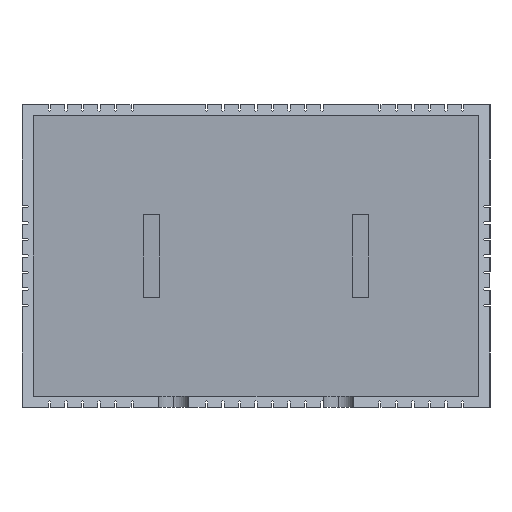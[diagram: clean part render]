
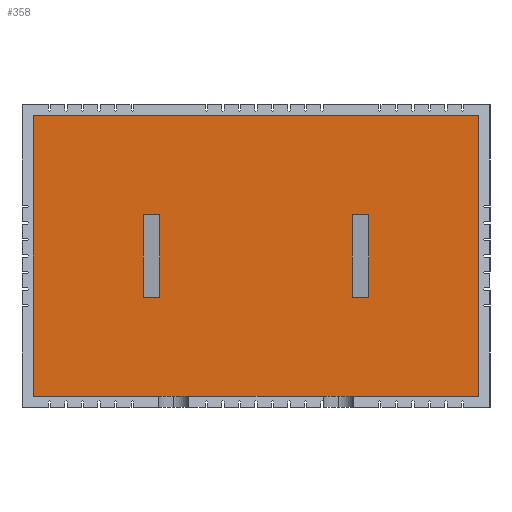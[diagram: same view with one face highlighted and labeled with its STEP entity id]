
A CAD part, left-side view. The second image highlights one B-rep face of the part: STEP entity #358.
In plain terms, the highlighted planar face has unit normal (-1, 0, 0).
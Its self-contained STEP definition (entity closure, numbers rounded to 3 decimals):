
#75 = ORIENTED_EDGE ( 'NONE', *, *, #628, .F. ) ;
#78 = VERTEX_POINT ( 'NONE', #3212 ) ;
#245 = DIRECTION ( 'NONE',  ( 0., 0., -1. ) ) ;
#358 = ADVANCED_FACE ( 'NONE', ( #2482, #7997, #3808 ), #6690, .F. ) ;
#542 = CARTESIAN_POINT ( 'NONE',  ( -168.154, 17.5, -7.5 ) ) ;
#628 = EDGE_CURVE ( 'NONE', #5426, #1120, #6015, .T. ) ;
#756 = VECTOR ( 'NONE', #8674, 1000. ) ;
#907 = EDGE_CURVE ( 'NONE', #1120, #4793, #7209, .T. ) ;
#1120 = VERTEX_POINT ( 'NONE', #4787 ) ;
#1186 = VECTOR ( 'NONE', #8878, 1000. ) ;
#1211 = ORIENTED_EDGE ( 'NONE', *, *, #907, .F. ) ;
#1294 = CARTESIAN_POINT ( 'NONE',  ( -168.154, 17.5, 7.5 ) ) ;
#1505 = VECTOR ( 'NONE', #6428, 1000. ) ;
#1568 = LINE ( 'NONE', #4419, #5545 ) ;
#1588 = VERTEX_POINT ( 'NONE', #6890 ) ;
#1686 = CARTESIAN_POINT ( 'NONE',  ( -168.154, 0., 0. ) ) ;
#1722 = CARTESIAN_POINT ( 'NONE',  ( -168.154, 0., 25.5 ) ) ;
#1847 = EDGE_CURVE ( 'NONE', #5691, #1588, #5857, .T. ) ;
#1913 = ORIENTED_EDGE ( 'NONE', *, *, #1847, .F. ) ;
#1919 = DIRECTION ( 'NONE',  ( 0., 0., 1. ) ) ;
#2192 = LINE ( 'NONE', #5789, #756 ) ;
#2260 = DIRECTION ( 'NONE',  ( 0., 1., 0. ) ) ;
#2289 = VECTOR ( 'NONE', #4115, 1000. ) ;
#2298 = CARTESIAN_POINT ( 'NONE',  ( -168.154, -17.5, 0. ) ) ;
#2482 = FACE_BOUND ( 'NONE', #9371, .T. ) ;
#2606 = CARTESIAN_POINT ( 'NONE',  ( -168.154, -17.5, 7.5 ) ) ;
#2663 = EDGE_CURVE ( 'NONE', #7882, #8413, #1568, .T. ) ;
#2855 = CARTESIAN_POINT ( 'NONE',  ( -168.154, 20.5, 0. ) ) ;
#2893 = VERTEX_POINT ( 'NONE', #4212 ) ;
#2933 = VECTOR ( 'NONE', #5748, 1000. ) ;
#2974 = CARTESIAN_POINT ( 'NONE',  ( -168.154, -20.5, 0. ) ) ;
#3041 = CARTESIAN_POINT ( 'NONE',  ( -168.154, -20.5, -7.5 ) ) ;
#3183 = DIRECTION ( 'NONE',  ( 0., 1., 0. ) ) ;
#3212 = CARTESIAN_POINT ( 'NONE',  ( -168.154, -17.5, -7.5 ) ) ;
#3297 = CARTESIAN_POINT ( 'NONE',  ( -168.154, -40.5, 25.5 ) ) ;
#3342 = ORIENTED_EDGE ( 'NONE', *, *, #6682, .T. ) ;
#3542 = LINE ( 'NONE', #8696, #4249 ) ;
#3707 = EDGE_CURVE ( 'NONE', #5413, #78, #6727, .T. ) ;
#3710 = CARTESIAN_POINT ( 'NONE',  ( -168.154, 0., 7.5 ) ) ;
#3747 = ORIENTED_EDGE ( 'NONE', *, *, #8414, .F. ) ;
#3808 = FACE_BOUND ( 'NONE', #5448, .T. ) ;
#3811 = CARTESIAN_POINT ( 'NONE',  ( -168.154, -40.5, 0. ) ) ;
#4115 = DIRECTION ( 'NONE',  ( 0., -1., 0. ) ) ;
#4162 = LINE ( 'NONE', #7036, #2289 ) ;
#4212 = CARTESIAN_POINT ( 'NONE',  ( -168.154, -20.5, 7.5 ) ) ;
#4249 = VECTOR ( 'NONE', #2260, 1000. ) ;
#4345 = EDGE_CURVE ( 'NONE', #5267, #2893, #7332, .T. ) ;
#4419 = CARTESIAN_POINT ( 'NONE',  ( -168.154, 40.5, 25.5 ) ) ;
#4575 = DIRECTION ( 'NONE',  ( 1., 0., 0. ) ) ;
#4715 = CARTESIAN_POINT ( 'NONE',  ( -168.154, 17.5, 0. ) ) ;
#4787 = CARTESIAN_POINT ( 'NONE',  ( -168.154, 20.5, 7.5 ) ) ;
#4793 = VERTEX_POINT ( 'NONE', #4964 ) ;
#4964 = CARTESIAN_POINT ( 'NONE',  ( -168.154, 20.5, -7.5 ) ) ;
#4973 = ORIENTED_EDGE ( 'NONE', *, *, #8668, .F. ) ;
#5066 = ORIENTED_EDGE ( 'NONE', *, *, #3707, .F. ) ;
#5090 = ORIENTED_EDGE ( 'NONE', *, *, #4345, .F. ) ;
#5267 = VERTEX_POINT ( 'NONE', #3041 ) ;
#5329 = CARTESIAN_POINT ( 'NONE',  ( -168.154, 0., -7.5 ) ) ;
#5413 = VERTEX_POINT ( 'NONE', #2606 ) ;
#5426 = VERTEX_POINT ( 'NONE', #1294 ) ;
#5448 = EDGE_LOOP ( 'NONE', ( #7699, #4973, #1211, #75 ) ) ;
#5545 = VECTOR ( 'NONE', #7378, 1000. ) ;
#5691 = VERTEX_POINT ( 'NONE', #3297 ) ;
#5700 = ORIENTED_EDGE ( 'NONE', *, *, #7858, .T. ) ;
#5748 = DIRECTION ( 'NONE',  ( 0., 0., -1. ) ) ;
#5789 = CARTESIAN_POINT ( 'NONE',  ( -168.154, 40.5, -25.5 ) ) ;
#5857 = LINE ( 'NONE', #3811, #6723 ) ;
#5890 = CARTESIAN_POINT ( 'NONE',  ( -168.154, 40.5, 25.5 ) ) ;
#6015 = LINE ( 'NONE', #3710, #9130 ) ;
#6054 = CARTESIAN_POINT ( 'NONE',  ( -168.154, 40.5, -25.5 ) ) ;
#6428 = DIRECTION ( 'NONE',  ( 0., 0., 1. ) ) ;
#6682 = EDGE_CURVE ( 'NONE', #8413, #1588, #2192, .T. ) ;
#6690 = PLANE ( 'NONE',  #8959 ) ;
#6723 = VECTOR ( 'NONE', #8832, 1000. ) ;
#6727 = LINE ( 'NONE', #2298, #9198 ) ;
#6771 = LINE ( 'NONE', #1722, #8779 ) ;
#6890 = CARTESIAN_POINT ( 'NONE',  ( -168.154, -40.5, -25.5 ) ) ;
#7036 = CARTESIAN_POINT ( 'NONE',  ( -168.154, 0., -7.5 ) ) ;
#7209 = LINE ( 'NONE', #2855, #2933 ) ;
#7215 = ORIENTED_EDGE ( 'NONE', *, *, #7284, .F. ) ;
#7284 = EDGE_CURVE ( 'NONE', #2893, #5413, #3542, .T. ) ;
#7332 = LINE ( 'NONE', #2974, #1505 ) ;
#7378 = DIRECTION ( 'NONE',  ( 0., 0., -1. ) ) ;
#7454 = DIRECTION ( 'NONE',  ( 0., 0., -1. ) ) ;
#7655 = VERTEX_POINT ( 'NONE', #542 ) ;
#7699 = ORIENTED_EDGE ( 'NONE', *, *, #8802, .F. ) ;
#7790 = LINE ( 'NONE', #4715, #8127 ) ;
#7858 = EDGE_CURVE ( 'NONE', #5691, #7882, #6771, .T. ) ;
#7882 = VERTEX_POINT ( 'NONE', #5890 ) ;
#7997 = FACE_OUTER_BOUND ( 'NONE', #8636, .T. ) ;
#8127 = VECTOR ( 'NONE', #1919, 1000. ) ;
#8211 = LINE ( 'NONE', #5329, #1186 ) ;
#8413 = VERTEX_POINT ( 'NONE', #6054 ) ;
#8414 = EDGE_CURVE ( 'NONE', #78, #5267, #4162, .T. ) ;
#8636 = EDGE_LOOP ( 'NONE', ( #3342, #1913, #5700, #8847 ) ) ;
#8668 = EDGE_CURVE ( 'NONE', #4793, #7655, #8211, .T. ) ;
#8674 = DIRECTION ( 'NONE',  ( 0., -1., 0. ) ) ;
#8696 = CARTESIAN_POINT ( 'NONE',  ( -168.154, 0., 7.5 ) ) ;
#8779 = VECTOR ( 'NONE', #8865, 1000. ) ;
#8802 = EDGE_CURVE ( 'NONE', #7655, #5426, #7790, .T. ) ;
#8832 = DIRECTION ( 'NONE',  ( 0., 0., -1. ) ) ;
#8847 = ORIENTED_EDGE ( 'NONE', *, *, #2663, .T. ) ;
#8865 = DIRECTION ( 'NONE',  ( 0., 1., 0. ) ) ;
#8878 = DIRECTION ( 'NONE',  ( 0., -1., 0. ) ) ;
#8959 = AXIS2_PLACEMENT_3D ( 'NONE', #1686, #4575, #7454 ) ;
#9130 = VECTOR ( 'NONE', #3183, 1000. ) ;
#9198 = VECTOR ( 'NONE', #245, 1000. ) ;
#9371 = EDGE_LOOP ( 'NONE', ( #5090, #3747, #5066, #7215 ) ) ;
